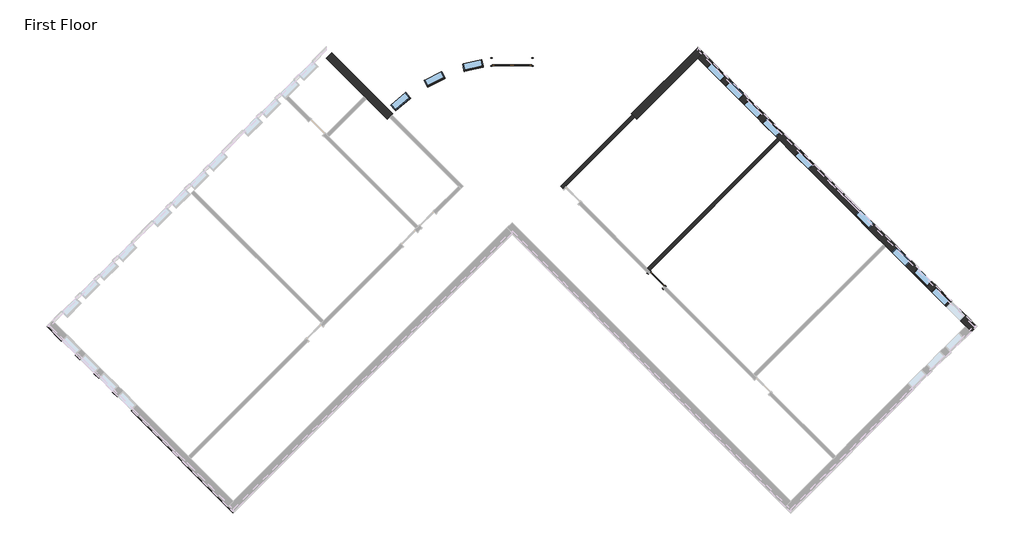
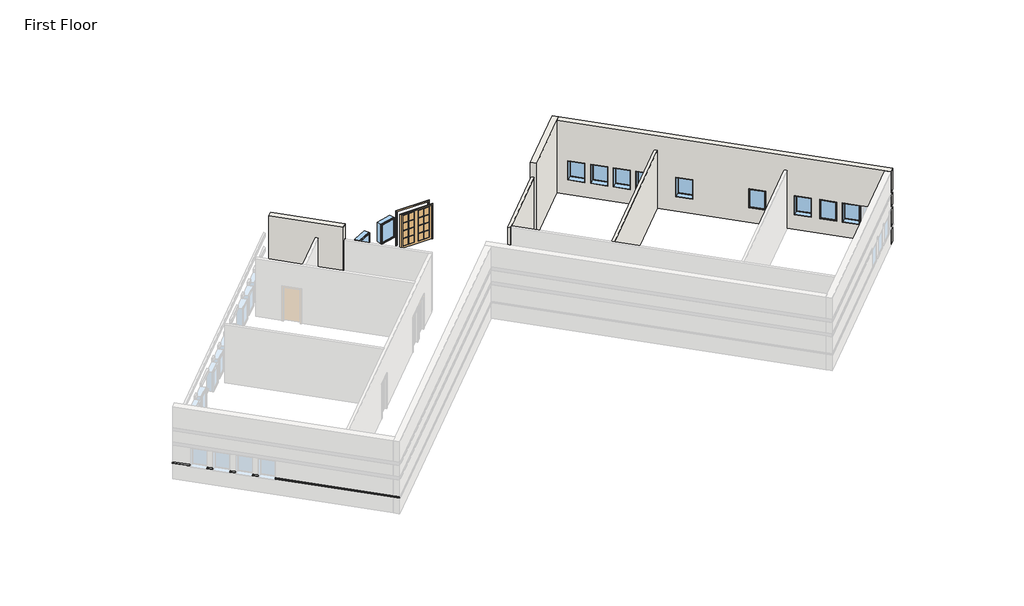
# One storey, part 2 of 3: 12 windows, 5 walls, 2 doors, 1 proxy.
"""IFC4 building model written with IfcOpenShell, lengths in millimetres."""

from ifc_helpers import new_model, si_unit, frame, origin, origin_with_axes, place, context, project, spatial, polyline, circle_curve, outline, extrude, faceted_brep, transform, mapped, element, save
from ifc_brep_helpers import plane_surface, cylinder_surface, revolved_surface, advanced_brep
from components import door_0a477ef8, door_5f5b55da, window_15c49d37

model = new_model("IFC4")

# Units and contexts
model_context = context("Model", 3, world=origin())
ifc_project = project(units=[si_unit("LENGTHUNIT", "METRE", prefix="MILLI")], contexts=[model_context])

# Site, building, storey
site = spatial("IfcSite", under=ifc_project)
building = spatial("IfcBuilding", under=site)
storey = spatial("IfcBuildingStorey", under=building, Name="First Floor", Elevation=0.0)

# Proxy
placement = place(None, origin())
element("IfcBuildingElementProxy", 1, Name="Wall Sweeps", at=placement, inside=storey, context=model_context, shape_type="Brep", body=[
    faceted_brep([(-23692.119777, -1956.2990742, 1085.85), (-23757.2266339, -2021.405931, 1085.85), (-23781.9223383, -2046.1016354, 1041.4), (-23781.9223383, -2046.1016354, 1016.0), (-23757.2266339, -2021.405931, 1016.0), (-23692.119777, -1956.2990742, 1016.0), (-24290.4293411, -1357.9895101, 1085.85), (-24290.4293411, -1357.9895101, 1016.0), (-24470.0344635, -1357.9895101, 1016.0), (-24470.0344635, -1357.9895101, 1041.4), (-24420.6430549, -1357.9895101, 1085.85)], [[[0, 1, 2, 3, 4, 5]], [[6, 7, 8, 9, 10]], [[1, 0, 6, 10]], [[2, 1, 10, 9]], [[3, 2, 9, 8]], [[5, 4, 3, 8, 7]], [[0, 5, 7, 6]]]),
    faceted_brep([(-15799.5971786, -9848.8216726, 1085.85), (-15799.5971786, -9979.0353863, 1085.85), (-15799.5971786, -10028.426795, 1041.4), (-15799.5971786, -10028.426795, 1016.0), (-15799.5971786, -9848.8216726, 1016.0), (-20459.2275735, -5189.1912777, 1085.85), (-20459.2275735, -5189.1912777, 1016.0), (-20524.3344303, -5254.2981346, 1016.0), (-20549.0301347, -5278.993839, 1016.0), (-20549.0301347, -5278.993839, 1041.4), (-20524.3344303, -5254.2981346, 1085.85), (-15983.6924291, -9664.7264221, 1085.85), (-15983.6924291, -9664.7264221, 1016.0)], [[[0, 1, 2, 3, 4]], [[5, 6, 7, 8, 9, 10]], [[1, 0, 11, 5, 10]], [[2, 1, 10, 9]], [[3, 2, 9, 8]], [[4, 3, 8, 7, 6, 12]], [[0, 4, 12, 6, 5, 11]]]),
    faceted_brep([(-21105.8060142, -4542.612837, 1085.85), (-21170.9128711, -4607.7196939, 1085.85), (-21195.6085754, -4632.4153982, 1041.4), (-21195.6085754, -4632.4153982, 1016.0), (-21170.9128711, -4607.7196939, 1016.0), (-21105.8060142, -4542.612837, 1016.0), (-21321.3321611, -4327.0866901, 1085.85), (-21321.3321611, -4327.0866901, 1016.0), (-21386.439018, -4392.193547, 1016.0), (-21411.1347223, -4416.8892513, 1016.0), (-21411.1347223, -4416.8892513, 1041.4), (-21386.439018, -4392.193547, 1085.85)], [[[0, 1, 2, 3, 4, 5]], [[6, 7, 8, 9, 10, 11]], [[1, 0, 6, 11]], [[2, 1, 11, 10]], [[3, 2, 10, 9]], [[5, 4, 3, 9, 8, 7]], [[0, 5, 7, 6]]]),
    faceted_brep([(-21967.9106018, -3680.5082494, 1085.85), (-22033.0174587, -3745.6151063, 1085.85), (-22057.713163, -3770.3108106, 1041.4), (-22057.713163, -3770.3108106, 1016.0), (-22033.0174587, -3745.6151063, 1016.0), (-21967.9106018, -3680.5082494, 1016.0), (-22183.4367487, -3464.9821025, 1085.85), (-22183.4367487, -3464.9821025, 1016.0), (-22248.5436056, -3530.0889594, 1016.0), (-22273.2393099, -3554.7846637, 1016.0), (-22273.2393099, -3554.7846637, 1041.4), (-22248.5436056, -3530.0889594, 1085.85)], [[[0, 1, 2, 3, 4, 5]], [[6, 7, 8, 9, 10, 11]], [[1, 0, 6, 11]], [[2, 1, 11, 10]], [[3, 2, 10, 9]], [[5, 4, 3, 9, 8, 7]], [[0, 5, 7, 6]]]),
    faceted_brep([(-22830.0151894, -2818.4036618, 1085.85), (-22895.1220463, -2883.5105187, 1085.85), (-22919.8177506, -2908.206223, 1041.4), (-22919.8177506, -2908.206223, 1016.0), (-22895.1220463, -2883.5105187, 1016.0), (-22830.0151894, -2818.4036618, 1016.0), (-23045.5413363, -2602.8775149, 1085.85), (-23045.5413363, -2602.8775149, 1016.0), (-23110.6481932, -2667.9843718, 1016.0), (-23135.3438975, -2692.6800761, 1016.0), (-23135.3438975, -2692.6800761, 1041.4), (-23110.6481932, -2667.9843718, 1085.85)], [[[0, 1, 2, 3, 4, 5]], [[6, 7, 8, 9, 10, 11]], [[1, 0, 6, 11]], [[2, 1, 11, 10]], [[3, 2, 10, 9]], [[5, 4, 3, 9, 8, 7]], [[0, 5, 7, 6]]]),
])

# Doors
door_shape = door_0a477ef8(model_context)
element("IfcDoor", 2, ObjectType="Double-Glass 2 : 72\" x 84\"", at=placement, inside=storey, context=model_context, shape_type="MappedRepresentation", body=[
    mapped(door_shape, transform((-2868.7603243, 10905.5717204, 0.0), x_axis=(-0.9999999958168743, -9.146721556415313e-05, 0.0), y_axis=(9.146721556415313e-05, -0.9999999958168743, 0.0), z_axis=(0.0, 0.0, 1.0))),
])
door_2_shape = door_5f5b55da(model_context)
element("IfcDoor", 3, ObjectType="Single-Glass 1 : 36\" x 84\"", at=placement, inside=storey, context=model_context, shape_type="MappedRepresentation", body=[
    mapped(door_2_shape, transform((3846.9581502, 797.271959, 0.0), x_axis=(-0.7071067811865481, 0.7071067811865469, 0.0), y_axis=(-0.7071067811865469, -0.7071067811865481, 0.0), z_axis=(0.0, 0.0, 1.0))),
])

# Walls
element("IfcWall", 4, ObjectType="Exterior - Split Face and CMU on Mtl. Stud", at=placement, inside=storey, context=model_context, shape_type="AdvancedBrep", body=[
    advanced_brep(
    [(2921.9555443, 8244.1131219, 4572.0), (5753.0175119, 11075.1750895, 4572.0), (6002.2196193, 11324.3771969, 4572.0), (5753.0175119, 11573.5793042, 4572.0), (2926.4294954, 8746.9912878, 4572.0), (2677.2250436, 8497.7868359, 4572.0), (2921.9555443, 8244.1131219, 0.0), (5753.0175119, 11075.1750895, 0.0), (6002.2196193, 11324.3771969, 0.0), (6002.2196193, 11324.3771969, 1016.0), (5937.1127624, 11259.27034, 1016.0), (5937.1127624, 11259.27034, 1085.85), (6002.2196193, 11324.3771969, 1085.85), (6002.2196193, 11324.3771969, 2133.6), (5937.1127624, 11259.27034, 2133.6), (5937.1127624, 11259.27034, 2336.8), (6002.2196193, 11324.3771969, 2336.8), (6002.2196193, 11324.3771969, 3048.0), (5937.1127624, 11259.27034, 3048.0), (5937.1127624, 11259.27034, 3251.2), (6002.2196193, 11324.3771969, 3251.2), (5753.0175119, 11573.5793042, 3251.2), (2926.4294954, 8746.9912878, 3251.2), (2861.3220456, 8681.8838379, 3251.2), (2861.3220456, 8681.8838379, 3048.0), (2926.4294954, 8746.9912878, 3048.0), (5753.0175119, 11573.5793042, 3048.0), (5753.0175119, 11573.5793042, 2336.8), (2926.4294954, 8746.9912878, 2336.8), (2861.3220456, 8681.8838379, 2336.8), (2861.3220456, 8681.8838379, 2133.6), (2926.4294954, 8746.9912878, 2133.6), (5753.0175119, 11573.5793042, 2133.6), (5753.0175119, 11573.5793042, 1085.85), (2926.4294954, 8746.9912878, 1085.85), (2861.3220456, 8681.8838379, 1085.85), (2861.3220456, 8681.8838379, 1016.0), (2926.4294954, 8746.9912878, 1016.0), (5753.0175119, 11573.5793042, 1016.0), (5753.0175119, 11573.5793042, 0.0), (2926.4294954, 8746.9912878, 0.0), (2677.2250436, 8497.7868359, 0.0), (2821.6573727, 8350.8353182, 0.0), (2742.2400511, 8432.5881297, 0.0), (5818.1243688, 11508.4724474, 0.0), (2926.3399919, 8616.6880705, 1085.85), (5753.0175119, 11443.3655905, 1085.85), (5753.0175119, 11443.3655905, 1016.0), (2926.3399919, 8616.6880705, 1016.0), (5753.0175119, 11443.3655905, 2133.6), (2926.3399919, 8616.6880705, 2133.6), (2926.3399919, 8616.6880705, 2336.8), (5753.0175119, 11443.3655905, 2336.8), (5753.0175119, 11443.3655905, 3048.0), (2926.3399919, 8616.6880705, 3048.0), (2926.3399919, 8616.6880705, 3251.2), (5753.0175119, 11443.3655905, 3251.2), (2712.9543912, 8462.145299, 0.0)],
    [
        (0, 1),
        (1, 2),
        (2, 3),
        (3, 4),
        (4, 5),
        (5, 0, circle_curve(frame((-2868.0283643, 2903.1420194, 4572.0), z_axis=(0.0, 0.0, -1.0), x_axis=(1.0, 0.0, 0.0)), 7877.175)),
        (6, 7),
        (7, 8),
        (8, 9),
        (9, 10),
        (10, 11),
        (11, 12),
        (12, 13),
        (13, 14),
        (14, 15),
        (15, 16),
        (16, 17),
        (17, 18),
        (18, 19),
        (19, 20),
        (20, 2),
        (0, 6),
        (3, 21),
        (21, 22),
        (22, 23),
        (23, 24),
        (24, 25),
        (25, 26),
        (26, 27),
        (27, 28),
        (28, 29),
        (29, 30),
        (30, 31),
        (31, 32),
        (32, 33),
        (33, 34),
        (34, 35),
        (35, 36),
        (36, 37),
        (37, 38),
        (38, 39),
        (39, 40),
        (40, 41),
        (41, 5),
        (6, 42, circle_curve(frame((-2868.0283643, 2903.1420194, 0.0), z_axis=(0.0, 0.0, 1.0), x_axis=(1.0, 0.0, 0.0)), 7877.175)),
        (42, 43, circle_curve(frame((-2868.0283643, 2903.1420194, 0.0), z_axis=(0.0, 0.0, 1.0), x_axis=(1.0, 0.0, 0.0)), 7877.1750053)),
        (43, 44),
        (44, 8),
        (45, 46),
        (46, 47),
        (47, 48),
        (48, 45),
        (49, 50),
        (50, 51),
        (51, 52),
        (52, 49),
        (53, 54),
        (54, 55),
        (55, 56),
        (56, 53),
        (20, 21),
        (44, 39),
        (38, 9),
        (12, 33),
        (32, 13),
        (16, 27),
        (26, 17),
        (46, 11),
        (10, 47),
        (52, 15),
        (14, 49),
        (56, 19),
        (18, 53),
        (43, 57, circle_curve(frame((-2868.0283643, 2903.1420194, 0.0), z_axis=(0.0, 0.0, 1.0), x_axis=(1.0, 0.0, 0.0)), 7877.175)),
        (57, 41, circle_curve(frame((-2868.0283643, 2903.1420194, 0.0), z_axis=(0.0, 0.0, 1.0), x_axis=(1.0, 0.0, 0.0)), 7877.175)),
        (45, 35, circle_curve(frame((-2868.0283643, 2903.1420194, 1085.85), z_axis=(0.0, 0.0, 1.0), x_axis=(0.6844196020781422, 0.7290883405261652, 0.0)), 8137.525)),
        (36, 48, circle_curve(frame((-2868.0283643, 2903.1420194, 1016.0), z_axis=(0.0, 0.0, -1.0), x_axis=(0.6844196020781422, 0.7290883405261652, 0.0)), 8137.525)),
        (30, 50, circle_curve(frame((-2868.0283643, 2903.1420194, 2133.6), z_axis=(0.0, 0.0, -1.0), x_axis=(0.6844196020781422, 0.7290883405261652, 0.0)), 8137.525)),
        (29, 51, circle_curve(frame((-2868.0283643, 2903.1420194, 2336.8), z_axis=(0.0, 0.0, -1.0), x_axis=(0.6844196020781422, 0.7290883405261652, 0.0)), 8137.525)),
        (24, 54, circle_curve(frame((-2868.0283643, 2903.1420194, 3048.0), z_axis=(0.0, 0.0, -1.0), x_axis=(-0.7040995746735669, 0.7101012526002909, 0.0)), 8137.525)),
        (23, 55, circle_curve(frame((-2868.0283643, 2903.1420194, 3251.2), z_axis=(0.0, 0.0, -1.0), x_axis=(-0.7040995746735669, 0.7101012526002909, 0.0)), 8137.525)),
    ],
    [
        plane_surface(frame((5877.6185656, 11199.7761432, 4572.0), z_axis=(0.0, 0.0, 1.0), x_axis=(-0.707106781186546, 0.7071067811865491, 0.0))),
        plane_surface(frame((2984.8535626, 8307.0111402, 0.0), z_axis=(0.707106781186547, -0.7071067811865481, 0.0), x_axis=(0.7071067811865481, 0.707106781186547, 0.0))),
        plane_surface(frame((2735.6514552, 8556.2132476, 0.0), z_axis=(-0.707106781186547, 0.7071067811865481, 0.0), x_axis=(-0.7071067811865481, -0.707106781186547, 0.0))),
        plane_surface(frame((3050.2065213, 8372.3640989, 0.0), z_axis=(0.0, 0.0, -1.0000000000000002), x_axis=(-0.7071067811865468, 0.7071067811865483, 0.0))),
        plane_surface(frame((2926.3399919, 8616.6880705, 1016.0), z_axis=(-0.7071067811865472, 0.7071067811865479, 0.0), x_axis=(0.7071067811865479, 0.7071067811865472, 0.0))),
        plane_surface(frame((2926.3399919, 8616.6880705, 2133.6), z_axis=(-0.7071067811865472, 0.7071067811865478, 0.0), x_axis=(0.7071067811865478, 0.7071067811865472, 0.0))),
        plane_surface(frame((2926.3399919, 8616.6880705, 3048.0), z_axis=(-0.7071067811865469, 0.7071067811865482, 0.0), x_axis=(0.7071067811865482, 0.7071067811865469, 0.0))),
        plane_surface(frame((5753.0175119, 11573.5793042, 0.0), z_axis=(0.7071067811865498, 0.7071067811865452, 0.0), x_axis=(-0.7071067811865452, 0.7071067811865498, 0.0))),
        plane_surface(frame((5753.0175119, 11443.3655905, 1016.0), z_axis=(0.7071067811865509, 0.7071067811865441, 0.0), x_axis=(0.7071067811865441, -0.7071067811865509, 0.0))),
        plane_surface(frame((5753.0175119, 11443.3655905, 2133.6), z_axis=(0.7071067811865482, 0.7071067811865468, 0.0), x_axis=(0.7071067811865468, -0.7071067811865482, 0.0))),
        plane_surface(frame((5753.0175119, 11443.3655905, 3048.0), z_axis=(0.7071067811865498, 0.7071067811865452, 0.0), x_axis=(0.7071067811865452, -0.7071067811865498, 0.0))),
        plane_surface(frame((0.0, 0.0, 0.0), z_axis=(0.0, 0.0, -1.0), x_axis=(1.0, 0.0, 0.0))),
        plane_surface(frame((-2868.0283643, 2903.1420194, 1085.85), z_axis=(0.0, 0.0, -1.0), x_axis=(0.6844196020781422, 0.7290883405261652, 0.0))),
        plane_surface(frame((-2868.0283643, 2903.1420194, 1016.0), z_axis=(0.0, 0.0, 1.0), x_axis=(0.6844196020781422, 0.7290883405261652, 0.0))),
        cylinder_surface(frame((-2868.0283643, 2903.1420194, 1016.0), z_axis=(0.0, 0.0, -1.0), x_axis=(0.6844196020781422, 0.7290883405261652, 0.0)), 8137.525),
        plane_surface(frame((-2868.0283643, 2903.1420194, 2133.6), z_axis=(0.0, 0.0, 1.0), x_axis=(0.6844196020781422, 0.7290883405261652, 0.0))),
        cylinder_surface(frame((-2868.0283643, 2903.1420194, 2133.6), z_axis=(0.0, 0.0, -1.0), x_axis=(0.6844196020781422, 0.7290883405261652, 0.0)), 8137.525),
        plane_surface(frame((-2868.0283643, 2903.1420194, 2336.8), z_axis=(0.0, 0.0, -1.0), x_axis=(0.6844196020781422, 0.7290883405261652, 0.0))),
        plane_surface(frame((-2868.0283643, 2903.1420194, 3048.0), z_axis=(0.0, 0.0, 1.0), x_axis=(-0.7040995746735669, 0.7101012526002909, 0.0))),
        cylinder_surface(frame((-2868.0283643, 2903.1420194, 3048.0), z_axis=(0.0, 0.0, -1.0), x_axis=(-0.7040995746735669, 0.7101012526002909, 0.0)), 8137.525),
        plane_surface(frame((-2868.0283643, 2903.1420194, 3251.2), z_axis=(0.0, 0.0, -1.0), x_axis=(-0.7040995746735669, 0.7101012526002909, 0.0))),
        revolved_surface(polyline([(5009.146635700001, 2903.1420194, 0.0), (5009.146635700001, 2903.1420194, 4572.0)]), (-2868.0283643, 2903.1420194, 0.0), (0.0, 0.0, -1.0)),
    ],
    [
        (0, [[1, 2, 3, 4, 5, 6]]),
        (1, [[7, 8, 9, 10, 11, 12, 13, 14, 15, 16, 17, 18, 19, 20, 21, -2, -1, 22]]),
        (2, [[-5, -4, 23, 24, 25, 26, 27, 28, 29, 30, 31, 32, 33, 34, 35, 36, 37, 38, 39, 40, 41, 42, 43, 44]]),
        (3, [[-8, -7, 45, 46, 47, 48]]),
        (4, [[49, 50, 51, 52]]),
        (5, [[53, 54, 55, 56]]),
        (6, [[57, 58, 59, 60]]),
        (7, [[-3, -21, 61, -23]]),
        (7, [[-48, 62, -41, 63, -9]]),
        (7, [[64, -35, 65, -13]]),
        (7, [[66, -29, 67, -17]]),
        (8, [[-50, 68, -11, 69]]),
        (9, [[-56, 70, -15, 71]]),
        (10, [[-60, 72, -19, 73]]),
        (11, [[74, 75, -43, -42, -62, -47]]),
        (12, [[-49, 76, -37, -36, -64, -12, -68]]),
        (13, [[-51, -69, -10, -63, -40, -39, 77]]),
        (14, [[-52, -77, -38, -76]]),
        (15, [[-53, -71, -14, -65, -34, -33, 78]]),
        (16, [[-54, -78, -32, 79]]),
        (17, [[-55, -79, -31, -30, -66, -16, -70]]),
        (18, [[-57, -73, -18, -67, -28, -27, 80]]),
        (19, [[-58, -80, -26, 81]]),
        (20, [[-59, -81, -25, -24, -61, -20, -72]]),
        (21, [[-6, -44, -75, -74, -46, -45, -22]]),
    ],
),
])
element("IfcWall", 5, ObjectType="Exterior - Split Face and CMU on Mtl. Stud", at=placement, inside=storey, context=model_context, shape_type="Brep", body=[
    faceted_brep([(5753.0175119, 11075.1750895, 4572.0), (18186.1821115, -1357.9895101, 4572.0), (18435.3842189, -1607.1916175, 4572.0), (18684.5863263, -1357.9895101, 4572.0), (6002.2196193, 11324.3771969, 4572.0), (5753.0175119, 11075.1750895, 0.0), (9452.8830338, 7375.3095676, 0.0), (9562.8911713, 7265.3014302, 0.0), (14376.3084522, 2451.8841493, 0.0), (14486.3165897, 2341.8760118, 0.0), (18186.1821115, -1357.9895101, 0.0), (18435.3842189, -1607.1916175, 0.0), (18435.3842189, -1607.1916175, 1016.0), (18370.277362, -1542.0847606, 1016.0), (18370.277362, -1542.0847606, 1085.85), (18435.3842189, -1607.1916175, 1085.85), (18435.3842189, -1607.1916175, 2133.6), (18370.277362, -1542.0847606, 2133.6), (18370.277362, -1542.0847606, 2336.8), (18435.3842189, -1607.1916175, 2336.8), (18435.3842189, -1607.1916175, 3048.0), (18370.277362, -1542.0847606, 3048.0), (18370.277362, -1542.0847606, 3251.2), (18435.3842189, -1607.1916175, 3251.2), (6813.8102662, 10014.3823352, 2133.6), (6813.8102662, 10014.3823352, 914.4), (6167.2318255, 10660.9607759, 914.4), (6167.2318255, 10660.9607759, 2133.6), (7675.9148538, 9152.2777476, 2133.6), (7675.9148538, 9152.2777476, 914.4), (7029.3364131, 9798.8561883, 914.4), (7029.3364131, 9798.8561883, 2133.6), (8538.0194415, 8290.17316, 2133.6), (8538.0194415, 8290.17316, 914.4), (7891.4410008, 8936.7516007, 914.4), (7891.4410008, 8936.7516007, 2133.6), (15401.180182, 1427.0124195, 2133.6), (15401.180182, 1427.0124195, 914.4), (14754.6017413, 2073.5908602, 914.4), (14754.6017413, 2073.5908602, 2133.6), (15724.4694024, 1103.7231991, 914.4), (15724.4694024, 1103.7231991, 2133.6), (16371.0478431, 457.1447584, 2133.6), (16371.0478431, 457.1447584, 914.4), (17233.1524307, -404.9598292, 2133.6), (17233.1524307, -404.9598292, 914.4), (16586.57399, 241.6186115, 914.4), (16586.57399, 241.6186115, 2133.6), (17933.6124081, -1105.4198067, 2133.6), (17933.6124081, -1105.4198067, 914.4), (17287.0339674, -458.841366, 914.4), (17287.0339674, -458.841366, 2133.6), (10908.8070574, 5919.385544, 2133.6), (10908.8070574, 5919.385544, 914.4), (10262.2286167, 6565.9639847, 914.4), (10262.2286167, 6565.9639847, 2133.6), (13030.392566, 3797.8000354, 914.4), (13030.392566, 3797.8000354, 2133.6), (13676.9710067, 3151.2215947, 2133.6), (13676.9710067, 3151.2215947, 914.4), (9400.1240291, 7428.0685724, 2133.6), (9400.1240291, 7428.0685724, 914.4), (8753.5455884, 8074.6470131, 914.4), (8753.5455884, 8074.6470131, 2133.6), (18684.5863263, -1357.9895101, 3251.2), (6002.2196193, 11324.3771969, 3251.2), (18684.5863263, -1357.9895101, 0.0), (6002.2196193, 11324.3771969, 0.0), (6002.2196193, 11324.3771969, 1016.0), (6416.4339329, 10910.1628833, 1016.0), (6416.4339329, 10910.1628833, 914.4), (7063.0123736, 10263.5844426, 914.4), (7063.0123736, 10263.5844426, 1016.0), (7278.5385205, 10048.0582957, 1016.0), (7278.5385205, 10048.0582957, 914.4), (7925.1169612, 9401.479855, 914.4), (7925.1169612, 9401.479855, 1016.0), (8140.6431081, 9185.9537081, 1016.0), (8140.6431081, 9185.9537081, 914.4), (8787.2215488, 8539.3752673, 914.4), (8787.2215488, 8539.3752673, 1016.0), (9002.7476957, 8323.8491204, 1016.0), (9002.7476957, 8323.8491204, 914.4), (9649.3261364, 7677.2706797, 914.4), (9649.3261364, 7677.2706797, 1016.0), (10511.4307241, 6815.1660921, 1016.0), (10511.4307241, 6815.1660921, 914.4), (11158.0091648, 6168.5876514, 914.4), (11158.0091648, 6168.5876514, 1016.0), (13279.5946734, 4047.0021428, 1016.0), (13279.5946734, 4047.0021428, 914.4), (13926.1731141, 3400.4237021, 914.4), (13926.1731141, 3400.4237021, 1016.0), (15003.8038486, 2322.7929675, 1016.0), (15003.8038486, 2322.7929675, 914.4), (15650.3822894, 1676.2145268, 914.4), (15650.3822894, 1676.2145268, 1016.0), (15973.6715097, 1352.9253065, 1016.0), (15973.6715097, 1352.9253065, 914.4), (16620.2499504, 706.3468657, 914.4), (16620.2499504, 706.3468657, 1016.0), (16835.7760973, 490.8207188, 1016.0), (16835.7760973, 490.8207188, 914.4), (17482.3545381, -155.7577219, 914.4), (17482.3545381, -155.7577219, 1016.0), (17536.2360748, -209.6392586, 1016.0), (17536.2360748, -209.6392586, 914.4), (18182.8145155, -856.2176993, 914.4), (18182.8145155, -856.2176993, 1016.0), (18684.5863263, -1357.9895101, 1016.0), (7063.0123736, 10263.5844426, 2133.6), (6416.4339329, 10910.1628833, 2133.6), (6416.4339329, 10910.1628833, 2336.8), (6002.2196193, 11324.3771969, 2336.8), (6002.2196193, 11324.3771969, 3048.0), (18684.5863263, -1357.9895101, 3048.0), (18684.5863263, -1357.9895101, 2336.8), (18182.8145155, -856.2176993, 2336.8), (18182.8145155, -856.2176993, 2133.6), (17536.2360748, -209.6392586, 2133.6), (17536.2360748, -209.6392586, 2336.8), (17482.3545381, -155.7577219, 2336.8), (17482.3545381, -155.7577219, 2133.6), (16835.7760973, 490.8207188, 2133.6), (16835.7760973, 490.8207188, 2336.8), (16620.2499504, 706.3468657, 2336.8), (16620.2499504, 706.3468657, 2133.6), (15973.6715097, 1352.9253065, 2133.6), (15973.6715097, 1352.9253065, 2336.8), (15650.3822894, 1676.2145268, 2336.8), (15650.3822894, 1676.2145268, 2133.6), (15003.8038486, 2322.7929675, 2133.6), (15003.8038486, 2322.7929675, 2336.8), (13926.1731141, 3400.4237021, 2336.8), (13926.1731141, 3400.4237021, 2133.6), (13279.5946734, 4047.0021428, 2133.6), (13279.5946734, 4047.0021428, 2336.8), (11158.0091648, 6168.5876514, 2336.8), (11158.0091648, 6168.5876514, 2133.6), (10511.4307241, 6815.1660921, 2133.6), (10511.4307241, 6815.1660921, 2336.8), (9649.3261364, 7677.2706797, 2336.8), (9649.3261364, 7677.2706797, 2133.6), (9002.7476957, 8323.8491204, 2133.6), (9002.7476957, 8323.8491204, 2336.8), (8787.2215488, 8539.3752673, 2336.8), (8787.2215488, 8539.3752673, 2133.6), (8140.6431081, 9185.9537081, 2133.6), (8140.6431081, 9185.9537081, 2336.8), (7925.1169612, 9401.479855, 2336.8), (7925.1169612, 9401.479855, 2133.6), (7278.5385205, 10048.0582957, 2133.6), (7278.5385205, 10048.0582957, 2336.8), (7063.0123736, 10263.5844426, 2336.8), (6416.4339329, 10910.1628833, 1085.85), (6002.2196193, 11324.3771969, 1085.85), (6002.2196193, 11324.3771969, 2133.6), (7063.0123736, 10263.5844426, 1085.85), (7278.5385205, 10048.0582957, 1085.85), (7925.1169612, 9401.479855, 1085.85), (8140.6431081, 9185.9537081, 1085.85), (8787.2215488, 8539.3752673, 1085.85), (9002.7476957, 8323.8491204, 1085.85), (15003.8038486, 2322.7929675, 1085.85), (13926.1731141, 3400.4237021, 1085.85), (15650.3822894, 1676.2145268, 1085.85), (15973.6715097, 1352.9253065, 1085.85), (16620.2499504, 706.3468657, 1085.85), (16835.7760973, 490.8207188, 1085.85), (17482.3545381, -155.7577219, 1085.85), (17536.2360748, -209.6392586, 1085.85), (18182.8145155, -856.2176993, 1085.85), (18684.5863263, -1357.9895101, 2133.6), (18684.5863263, -1357.9895101, 1085.85), (13279.5946734, 4047.0021428, 1085.85), (11158.0091648, 6168.5876514, 1085.85), (9649.3261364, 7677.2706797, 1085.85), (10511.4307241, 6815.1660921, 1085.85), (5937.1127624, 11259.27034, 0.0), (18619.4794694, -1423.096367, 0.0), (18554.3726125, -1357.9895101, 1085.85), (18117.7076586, -921.3245562, 1085.85), (18117.7076586, -921.3245562, 1016.0), (18554.3726125, -1357.9895101, 1016.0), (18117.7076586, -921.3245562, 2133.6), (18117.7076586, -921.3245562, 2336.8), (18554.3726125, -1357.9895101, 2133.6), (18554.3726125, -1357.9895101, 2336.8), (18554.3726125, -1357.9895101, 3251.2), (18554.3726125, -1357.9895101, 3048.0), (5937.1127624, 11259.27034, 3048.0), (5937.1127624, 11259.27034, 3251.2), (5937.1127624, 11259.27034, 2336.8), (5937.1127624, 11259.27034, 2133.6), (5937.1127624, 11259.27034, 1085.85), (5937.1127624, 11259.27034, 1016.0), (6351.327076, 10845.0560264, 1085.85), (6351.327076, 10845.0560264, 1016.0), (6351.327076, 10845.0560264, 2133.6), (6351.327076, 10845.0560264, 2336.8), (6997.9055167, 10198.4775857, 2133.6), (6997.9055167, 10198.4775857, 1085.85), (6997.9055167, 10198.4775857, 1016.0), (6351.327076, 10845.0560264, 2133.6), (17417.2476812, -220.8645788, 1085.85), (17471.1292179, -274.7461155, 1085.85), (17471.1292179, -274.7461155, 1016.0), (17417.2476812, -220.8645788, 1016.0), (17471.1292179, -274.7461155, 2336.8), (17471.1292179, -274.7461155, 2133.6), (17417.2476812, -220.8645788, 2133.6), (17417.2476812, -220.8645788, 2336.8), (7860.0101043, 9336.3729981, 2133.6), (7860.0101043, 9336.3729981, 1085.85), (7860.0101043, 9336.3729981, 1016.0), (7213.4316636, 9982.9514388, 1016.0), (7213.4316636, 9982.9514388, 1085.85), (7213.4316636, 9982.9514388, 2133.6), (16555.1430936, 641.2400089, 1085.85), (16770.6692405, 425.713862, 1085.85), (16770.6692405, 425.713862, 1016.0), (16555.1430936, 641.2400089, 1016.0), (16770.6692405, 425.713862, 2336.8), (16770.6692405, 425.713862, 2133.6), (16555.1430936, 641.2400089, 2133.6), (16555.1430936, 641.2400089, 2336.8), (8722.1146919, 8474.2684105, 2133.6), (8722.1146919, 8474.2684105, 1085.85), (8722.1146919, 8474.2684105, 1016.0), (8075.5362512, 9120.8468512, 1016.0), (8075.5362512, 9120.8468512, 1085.85), (8075.5362512, 9120.8468512, 2133.6), (15585.2754325, 1611.1076699, 1085.85), (15908.5646528, 1287.8184496, 1085.85), (15908.5646528, 1287.8184496, 1016.0), (15585.2754325, 1611.1076699, 1016.0), (15908.5646528, 1287.8184496, 2336.8), (15908.5646528, 1287.8184496, 2133.6), (15585.2754325, 1611.1076699, 2133.6), (15585.2754325, 1611.1076699, 2336.8), (13861.0662572, 3335.3168452, 1085.85), (14938.6969918, 2257.6861107, 1085.85), (14938.6969918, 2257.6861107, 1016.0), (13861.0662572, 3335.3168452, 1016.0), (14938.6969918, 2257.6861107, 2336.8), (14938.6969918, 2257.6861107, 2133.6), (13861.0662572, 3335.3168452, 2133.6), (13861.0662572, 3335.3168452, 2336.8), (15585.2754325, 1611.1076699, 2133.6), (14938.6969918, 2257.6861107, 2133.6), (11092.9023079, 6103.4807945, 1085.85), (13214.4878165, 3981.8952859, 1085.85), (13214.4878165, 3981.8952859, 1016.0), (11092.9023079, 6103.4807945, 1016.0), (13214.4878165, 3981.8952859, 2336.8), (13214.4878165, 3981.8952859, 2133.6), (11092.9023079, 6103.4807945, 2133.6), (11092.9023079, 6103.4807945, 2336.8), (15908.5646528, 1287.8184496, 2133.6), (16555.1430936, 641.2400089, 2133.6), (9584.2192796, 7612.1638228, 1085.85), (10446.3238672, 6750.0592352, 1085.85), (10446.3238672, 6750.0592352, 1016.0), (9584.2192796, 7612.1638228, 1016.0), (10446.3238672, 6750.0592352, 2336.8), (10446.3238672, 6750.0592352, 2133.6), (9584.2192796, 7612.1638228, 2133.6), (9584.2192796, 7612.1638228, 2336.8), (17417.2476812, -220.8645788, 2133.6), (16770.6692405, 425.713862, 2133.6), (8937.6408389, 8258.7422636, 1085.85), (8937.6408389, 8258.7422636, 1016.0), (8937.6408389, 8258.7422636, 2336.8), (8937.6408389, 8258.7422636, 2133.6), (8722.1146919, 8474.2684105, 2133.6), (8722.1146919, 8474.2684105, 2336.8), (18117.7076586, -921.3245562, 2133.6), (17471.1292179, -274.7461155, 2133.6), (8075.5362512, 9120.8468512, 2336.8), (8075.5362512, 9120.8468512, 2133.6), (7860.0101043, 9336.3729981, 2133.6), (7860.0101043, 9336.3729981, 2336.8), (11092.9023079, 6103.4807945, 2133.6), (10446.3238672, 6750.0592352, 2133.6), (7213.4316636, 9982.9514388, 2336.8), (7213.4316636, 9982.9514388, 2133.6), (6997.9055167, 10198.4775857, 2133.6), (6997.9055167, 10198.4775857, 2336.8), (13214.4878165, 3981.8952859, 2133.6), (13861.0662572, 3335.3168452, 2133.6), (9584.2192796, 7612.1638228, 2133.6), (8937.6408389, 8258.7422636, 2133.6)], [[[0, 1, 2, 3, 4]], [[5, 6, 7, 8, 9, 10, 11, 12, 13, 14, 15, 16, 17, 18, 19, 20, 21, 22, 23, 2, 1, 0], [24, 25, 26, 27], [28, 29, 30, 31], [32, 33, 34, 35], [36, 37, 38, 39], [40, 41, 42, 43], [44, 45, 46, 47], [48, 49, 50, 51], [52, 53, 54, 55], [56, 57, 58, 59], [60, 61, 62, 63]], [[4, 3, 64, 65]], [[66, 67, 68, 69, 70, 71, 72, 73, 74, 75, 76, 77, 78, 79, 80, 81, 82, 83, 84, 85, 86, 87, 88, 89, 90, 91, 92, 93, 94, 95, 96, 97, 98, 99, 100, 101, 102, 103, 104, 105, 106, 107, 108, 109]], [[110, 111, 112, 113, 114, 115, 116, 117, 118, 119, 120, 121, 122, 123, 124, 125, 126, 127, 128, 129, 130, 131, 132, 133, 134, 135, 136, 137, 138, 139, 140, 141, 142, 143, 144, 145, 146, 147, 148, 149, 150, 151, 152, 153]], [[111, 154, 155, 156]], [[157, 110, 151, 158]], [[159, 150, 147, 160]], [[161, 146, 143, 162]], [[131, 163, 164, 134]], [[165, 130, 127, 166]], [[167, 126, 123, 168]], [[169, 122, 119, 170]], [[171, 118, 172, 173]], [[135, 174, 175, 138]], [[176, 142, 139, 177]], [[11, 10, 9, 8, 7, 6, 5, 178, 179]], [[180, 181, 171, 173, 15, 14]], [[182, 183, 13, 12, 109, 108]], [[181, 180, 183, 182]], [[184, 118, 117, 185]], [[118, 184, 186, 17, 16, 172]], [[184, 185, 187, 186]], [[185, 117, 116, 19, 18, 187]], [[188, 189, 190, 191]], [[5, 0, 4, 65, 191, 190, 114, 113, 192, 193, 156, 155, 194, 195, 68, 67, 178]], [[67, 66, 179, 178]], [[196, 194, 155, 154]], [[195, 197, 69, 68]], [[198, 111, 156, 193]], [[112, 199, 192, 113]], [[190, 189, 21, 20, 115, 114]], [[22, 188, 191, 65, 64, 23]], [[3, 2, 23, 64]], [[11, 179, 66, 109, 12]], [[15, 173, 172, 16]], [[19, 116, 115, 20]], [[189, 188, 22, 21]], [[25, 24, 200, 110, 157, 201, 202, 72, 71]], [[26, 25, 71, 70]], [[27, 26, 70, 69, 197, 196, 154, 111, 203]], [[24, 27, 203, 111, 110, 200]], [[204, 205, 206, 207]], [[208, 120, 119, 209]], [[210, 211, 208, 209]], [[29, 28, 212, 150, 159, 213, 214, 76, 75]], [[30, 29, 75, 74]], [[31, 30, 74, 73, 215, 216, 158, 151, 217]], [[28, 31, 217, 151, 150, 212]], [[218, 219, 220, 221]], [[205, 204, 169, 170]], [[207, 206, 105, 104]], [[222, 124, 123, 223]], [[224, 225, 222, 223]], [[210, 122, 121, 211]], [[122, 210, 209, 119]], [[211, 121, 120, 208]], [[33, 32, 226, 146, 161, 227, 228, 80, 79]], [[34, 33, 79, 78]], [[35, 34, 78, 77, 229, 230, 160, 147, 231]], [[32, 35, 231, 147, 146, 226]], [[232, 233, 234, 235]], [[219, 218, 167, 168]], [[221, 220, 101, 100]], [[236, 128, 127, 237]], [[238, 239, 236, 237]], [[224, 126, 125, 225]], [[126, 224, 223, 123]], [[225, 125, 124, 222]], [[240, 241, 242, 243]], [[233, 232, 165, 166]], [[235, 234, 97, 96]], [[244, 132, 131, 245]], [[246, 247, 244, 245]], [[238, 130, 129, 239]], [[130, 238, 237, 127]], [[239, 129, 128, 236]], [[37, 36, 248, 130, 165, 232, 235, 96, 95]], [[38, 37, 95, 94]], [[39, 38, 94, 93, 242, 241, 163, 131, 249]], [[36, 39, 249, 131, 130, 248]], [[250, 251, 252, 253]], [[241, 240, 164, 163]], [[243, 242, 93, 92]], [[254, 136, 135, 255]], [[256, 257, 254, 255]], [[246, 134, 133, 247]], [[134, 246, 245, 131]], [[247, 133, 132, 244]], [[41, 40, 98, 97, 234, 233, 166, 127, 258]], [[99, 98, 40, 43]], [[43, 42, 259, 126, 167, 218, 221, 100, 99]], [[127, 126, 259, 42, 41, 258]], [[260, 261, 262, 263]], [[251, 250, 175, 174]], [[253, 252, 89, 88]], [[264, 140, 139, 265]], [[266, 267, 264, 265]], [[256, 138, 137, 257]], [[138, 256, 255, 135]], [[257, 137, 136, 254]], [[45, 44, 268, 122, 169, 204, 207, 104, 103]], [[46, 45, 103, 102]], [[47, 46, 102, 101, 220, 219, 168, 123, 269]], [[44, 47, 269, 123, 122, 268]], [[227, 270, 271, 228]], [[261, 260, 176, 177]], [[263, 262, 85, 84]], [[272, 144, 143, 273]], [[274, 275, 272, 273]], [[266, 142, 141, 267]], [[142, 266, 265, 139]], [[267, 141, 140, 264]], [[49, 48, 276, 118, 171, 181, 182, 108, 107]], [[50, 49, 107, 106]], [[51, 50, 106, 105, 206, 205, 170, 119, 277]], [[48, 51, 277, 119, 118, 276]], [[213, 230, 229, 214]], [[270, 227, 161, 162]], [[228, 271, 81, 80]], [[278, 148, 147, 279]], [[280, 281, 278, 279]], [[274, 146, 145, 275]], [[146, 274, 273, 143]], [[275, 145, 144, 272]], [[53, 52, 282, 138, 175, 250, 253, 88, 87]], [[54, 53, 87, 86]], [[55, 54, 86, 85, 262, 261, 177, 139, 283]], [[52, 55, 283, 139, 138, 282]], [[201, 216, 215, 202]], [[230, 213, 159, 160]], [[214, 229, 77, 76]], [[284, 152, 151, 285]], [[286, 287, 284, 285]], [[280, 150, 149, 281]], [[150, 280, 279, 147]], [[281, 149, 148, 278]], [[57, 56, 90, 89, 252, 251, 174, 135, 288]], [[91, 90, 56, 59]], [[59, 58, 289, 134, 164, 240, 243, 92, 91]], [[135, 134, 289, 58, 57, 288]], [[216, 201, 157, 158]], [[202, 215, 73, 72]], [[183, 180, 14, 13]], [[286, 110, 153, 287]], [[110, 286, 285, 151]], [[287, 153, 152, 284]], [[186, 187, 18, 17]], [[83, 61, 60, 290, 142, 176, 260, 263, 84]], [[82, 62, 61, 83]], [[62, 82, 81, 271, 270, 162, 143, 291, 63]], [[60, 63, 291, 143, 142, 290]], [[194, 196, 197, 195]], [[111, 198, 199, 112]], [[199, 198, 193, 192]]]),
])
element("IfcWall", 6, ObjectType="Exterior - Split Face and CMU on Mtl. Stud", at=placement, inside=storey, context=model_context, shape_type="AdvancedBrep", body=[
    advanced_brep(
    [(-11489.0742405, 11075.1750895, 0.0), (-9728.9440408, 9315.0448898, 0.0), (-9618.9359033, 9205.0367523, 0.0), (-8658.0122729, 8244.1131219, 0.0), (-8658.0122729, 8244.1131219, 4572.0), (-11489.0742405, 11075.1750895, 4572.0), (-11239.8721332, 11324.3771969, 4572.0), (-8662.486224, 8746.9912878, 4572.0), (-8413.2817722, 8497.7868359, 4572.0), (-8413.2817722, 8497.7868359, 0.0), (-8662.486224, 8746.9912878, 0.0), (-11239.8721332, 11324.3771969, 0.0), (-11239.8721332, 11324.3771969, 1016.0), (-8662.486224, 8746.9912878, 1016.0), (-8597.3787742, 8681.8838379, 1016.0), (-8597.3787742, 8681.8838379, 1085.85), (-8662.486224, 8746.9912878, 1085.85), (-11239.8721332, 11324.3771969, 1085.85), (-11239.8721332, 11324.3771969, 2133.6), (-8662.486224, 8746.9912878, 2133.6), (-8597.3787742, 8681.8838379, 2133.6), (-8597.3787742, 8681.8838379, 2336.8), (-8662.486224, 8746.9912878, 2336.8), (-11239.8721332, 11324.3771969, 2336.8), (-11239.8721332, 11324.3771969, 3048.0), (-8662.486224, 8746.9912878, 3048.0), (-8597.3787742, 8681.8838379, 3048.0), (-8597.3787742, 8681.8838379, 3251.2), (-8662.486224, 8746.9912878, 3251.2), (-11239.8721332, 11324.3771969, 3251.2), (-8557.713594, 8350.8358404, 0.0), (-8478.2967797, 8432.5881297, 0.0), (-8449.0111375, 8462.1452813, 0.0), (-11304.9789901, 11259.27034, 3251.2), (-11304.9789901, 11259.27034, 3048.0), (-11304.9789901, 11259.27034, 2336.8), (-11304.9789901, 11259.27034, 2133.6), (-11304.9789901, 11259.27034, 1085.85), (-11304.9789901, 11259.27034, 1016.0), (-11304.9789901, 11259.27034, 0.0), (-8662.3967205, 8616.6880705, 1085.85), (-8662.3967205, 8616.6880705, 1016.0), (-8662.3967205, 8616.6880705, 2336.8), (-8662.3967205, 8616.6880705, 2133.6), (-8662.3967205, 8616.6880705, 3251.2), (-8662.3967205, 8616.6880705, 3048.0)],
    [
        (0, 1),
        (1, 2),
        (2, 3),
        (3, 4),
        (4, 5),
        (5, 0),
        (6, 7),
        (7, 8),
        (8, 9),
        (9, 10),
        (10, 11),
        (11, 12),
        (12, 13),
        (13, 14),
        (14, 15),
        (15, 16),
        (16, 17),
        (17, 18),
        (18, 19),
        (19, 20),
        (20, 21),
        (21, 22),
        (22, 23),
        (23, 24),
        (24, 25),
        (25, 26),
        (26, 27),
        (27, 28),
        (28, 29),
        (29, 6),
        (4, 8, circle_curve(frame((-2868.0283643, 2903.1420194, 4572.0), z_axis=(0.0, 0.0, -1.0), x_axis=(1.0, 0.0, 0.0)), 7877.175)),
        (6, 5),
        (3, 30, circle_curve(frame((-2868.0283643, 2903.1420194, 0.0), z_axis=(0.0, 0.0, -1.0), x_axis=(1.0, 0.0, 0.0)), 7877.175)),
        (30, 31, circle_curve(frame((-2868.0283643, 2903.1420194, 0.0), z_axis=(0.0, 0.0, -1.0), x_axis=(1.0, 0.0, 0.0)), 7877.175)),
        (31, 32, circle_curve(frame((-2868.0283643, 2903.1420194, 0.0), z_axis=(0.0, 0.0, -1.0), x_axis=(1.0, 0.0, 0.0)), 7877.175)),
        (32, 9, circle_curve(frame((-2868.0283643, 2903.1420194, 0.0), z_axis=(0.0, 0.0, -1.0), x_axis=(1.0, 0.0, 0.0)), 7877.175)),
        (29, 33),
        (33, 34),
        (34, 24),
        (23, 35),
        (35, 36),
        (36, 18),
        (17, 37),
        (37, 38),
        (38, 12),
        (11, 39),
        (39, 0),
        (39, 31),
        (40, 41),
        (41, 38),
        (37, 40),
        (15, 40, circle_curve(frame((-2868.0283643, 2903.1420194, 1085.85), z_axis=(0.0, 0.0, 1.0), x_axis=(-0.7040995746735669, 0.7101012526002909, 0.0)), 8137.525)),
        (41, 14, circle_curve(frame((-2868.0283643, 2903.1420194, 1016.0), z_axis=(0.0, 0.0, -1.0), x_axis=(-0.7040995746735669, 0.7101012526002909, 0.0)), 8137.525)),
        (42, 43),
        (43, 36),
        (35, 42),
        (43, 20, circle_curve(frame((-2868.0283643, 2903.1420194, 2133.6), z_axis=(0.0, 0.0, -1.0), x_axis=(-0.7120553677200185, 0.70212331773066, 0.0)), 8137.525)),
        (42, 21, circle_curve(frame((-2868.0283643, 2903.1420194, 2336.8), z_axis=(0.0, 0.0, -1.0), x_axis=(-0.7120553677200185, 0.70212331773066, 0.0)), 8137.525)),
        (44, 45),
        (45, 34),
        (33, 44),
        (45, 26, circle_curve(frame((-2868.0283643, 2903.1420194, 3048.0), z_axis=(0.0, 0.0, -1.0), x_axis=(-0.7120553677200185, 0.70212331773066, 0.0)), 8137.525)),
        (44, 27, circle_curve(frame((-2868.0283643, 2903.1420194, 3251.2), z_axis=(0.0, 0.0, -1.0), x_axis=(-0.7120553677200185, 0.70212331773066, 0.0)), 8137.525)),
    ],
    [
        plane_surface(frame((-11738.2763479, 11324.3771969, 0.0), z_axis=(-0.7071067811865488, -0.7071067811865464, 0.0), x_axis=(0.7071067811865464, -0.7071067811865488, 0.0))),
        plane_surface(frame((-11489.0742405, 11573.5793042, 0.0), z_axis=(0.7071067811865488, 0.7071067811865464, 0.0), x_axis=(-0.7071067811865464, 0.7071067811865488, 0.0))),
        plane_surface(frame((-8786.2632499, 8372.3640989, 4572.0), z_axis=(0.0, 0.0, 1.0), x_axis=(0.7071067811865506, 0.7071067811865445, 0.0))),
        revolved_surface(polyline([(5009.146635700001, 2903.1420194, 0.0), (5009.146635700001, 2903.1420194, 4572.0)]), (-2868.0283643, 2903.1420194, 0.0), (0.0, 0.0, -1.0)),
        plane_surface(frame((-24171.4409475, -1607.1916175, 0.0), z_axis=(-0.7071067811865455, 0.7071067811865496, 0.0), x_axis=(0.7071067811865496, 0.7071067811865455, 0.0))),
        plane_surface(frame((-11613.6752942, 11199.7761432, 0.0), z_axis=(0.0, 0.0, -1.0000000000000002), x_axis=(0.7071067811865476, 0.7071067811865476, 0.0))),
        plane_surface(frame((0.0, 0.0, 0.0), z_axis=(0.0, 0.0, -1.0), x_axis=(1.0, 0.0, 0.0))),
        plane_surface(frame((-11489.0742405, 11443.3655905, 1016.0), z_axis=(0.7071067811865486, 0.7071067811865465, 0.0), x_axis=(0.7071067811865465, -0.7071067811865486, 0.0))),
        plane_surface(frame((-2868.0283643, 2903.1420194, 1085.85), z_axis=(0.0, 0.0, -1.0), x_axis=(-0.7040995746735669, 0.7101012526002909, 0.0))),
        plane_surface(frame((-2868.0283643, 2903.1420194, 1016.0), z_axis=(0.0, 0.0, 1.0), x_axis=(-0.7040995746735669, 0.7101012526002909, 0.0))),
        cylinder_surface(frame((-2868.0283643, 2903.1420194, 1016.0), z_axis=(0.0, 0.0, -1.0), x_axis=(-0.7040995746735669, 0.7101012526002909, 0.0)), 8137.525),
        plane_surface(frame((-11489.0742405, 11443.3655905, 2133.6), z_axis=(0.7071067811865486, 0.7071067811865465, 0.0), x_axis=(0.7071067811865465, -0.7071067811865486, 0.0))),
        plane_surface(frame((-2868.0283643, 2903.1420194, 2133.6), z_axis=(0.0, 0.0, 1.0), x_axis=(-0.7120553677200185, 0.70212331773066, 0.0))),
        cylinder_surface(frame((-2868.0283643, 2903.1420194, 2133.6), z_axis=(0.0, 0.0, -1.0), x_axis=(-0.7120553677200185, 0.70212331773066, 0.0)), 8137.525),
        plane_surface(frame((-2868.0283643, 2903.1420194, 2336.8), z_axis=(0.0, 0.0, -1.0), x_axis=(-0.7120553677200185, 0.70212331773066, 0.0))),
        plane_surface(frame((-11489.0742405, 11443.3655905, 3048.0), z_axis=(0.7071067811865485, 0.7071067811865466, 0.0), x_axis=(0.7071067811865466, -0.7071067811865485, 0.0))),
        plane_surface(frame((-2868.0283643, 2903.1420194, 3048.0), z_axis=(0.0, 0.0, 1.0), x_axis=(-0.7120553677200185, 0.70212331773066, 0.0))),
        cylinder_surface(frame((-2868.0283643, 2903.1420194, 3048.0), z_axis=(0.0, 0.0, -1.0), x_axis=(-0.7120553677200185, 0.70212331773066, 0.0)), 8137.525),
        plane_surface(frame((-2868.0283643, 2903.1420194, 3251.2), z_axis=(0.0, 0.0, -1.0), x_axis=(-0.7120553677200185, 0.70212331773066, 0.0))),
    ],
    [
        (0, [[1, 2, 3, 4, 5, 6]]),
        (1, [[7, 8, 9, 10, 11, 12, 13, 14, 15, 16, 17, 18, 19, 20, 21, 22, 23, 24, 25, 26, 27, 28, 29, 30]]),
        (2, [[-5, 31, -8, -7, 32]]),
        (3, [[-31, -4, 33, 34, 35, 36, -9]]),
        (4, [[-6, -32, -30, 37, 38, 39, -24, 40, 41, 42, -18, 43, 44, 45, -12, 46, 47]]),
        (5, [[-3, -2, -1, -47, 48, -34, -33]]),
        (6, [[-46, -11, -10, -36, -35, -48]]),
        (7, [[49, 50, -44, 51]]),
        (8, [[52, -51, -43, -17, -16]]),
        (9, [[-50, 53, -14, -13, -45]]),
        (10, [[-49, -52, -15, -53]]),
        (11, [[54, 55, -41, 56]]),
        (12, [[-55, 57, -20, -19, -42]]),
        (13, [[-54, 58, -21, -57]]),
        (14, [[-58, -56, -40, -23, -22]]),
        (15, [[59, 60, -38, 61]]),
        (16, [[-60, 62, -26, -25, -39]]),
        (17, [[-59, 63, -27, -62]]),
        (18, [[-63, -61, -37, -29, -28]]),
    ],
),
])
element("IfcWall", 7, ObjectType="Interior - 6 1/8\" Partition (2-hr)", at=placement, inside=storey, context=model_context, shape_type="AdvancedBrep", body=[
    advanced_brep(
    [(-497.4763129, 5031.6982846, 0.0), (-387.4681754, 5141.7064221, 0.0), (2821.6590066, 8350.8336041, 0.0), (2821.6590066, 8350.8336041, 3657.6), (-387.4681754, 5141.7064221, 3657.6), (-497.4763129, 5031.6982846, 3657.6), (-607.4844504, 5141.7064221, 0.0), (-607.4844504, 5141.7064221, 3657.6), (2712.9544089, 8462.1452813, 3657.6), (2712.9544089, 8462.1452813, 0.0)],
    [
        (0, 1),
        (1, 2),
        (2, 3),
        (3, 4),
        (4, 5),
        (5, 0),
        (6, 7),
        (7, 8),
        (8, 9),
        (9, 6),
        (0, 6),
        (9, 2, circle_curve(frame((-2868.0283643, 2903.1420194, 0.0), z_axis=(0.0, 0.0, -1.0), x_axis=(1.0, 0.0, 0.0)), 7877.175)),
        (3, 8, circle_curve(frame((-2868.0283643, 2903.1420194, 3657.6), z_axis=(0.0, 0.0, 1.0), x_axis=(1.0, 0.0, 0.0)), 7877.175)),
        (7, 5),
    ],
    [
        plane_surface(frame((-442.4722441, 5086.7023533, 0.0), z_axis=(0.7071067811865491, -0.7071067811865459, 0.0), x_axis=(0.7071067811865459, 0.7071067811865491, 0.0))),
        plane_surface(frame((-552.4803816, 5196.7104908, 0.0), z_axis=(-0.7071067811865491, 0.7071067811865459, 0.0), x_axis=(-0.7071067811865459, -0.7071067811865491, 0.0))),
        plane_surface(frame((-442.4722441, 5086.7023533, 0.0), z_axis=(0.0, 0.0, -1.0), x_axis=(-0.707106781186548, 0.7071067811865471, 0.0))),
        plane_surface(frame((2947.192033, 8476.3666305, 3657.6), z_axis=(0.0, 0.0, 1.0000000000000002), x_axis=(-0.7071067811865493, 0.7071067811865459, 0.0))),
        plane_surface(frame((12163.7978503, -7629.5758786, 0.0), z_axis=(-0.7071067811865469, -0.7071067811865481, 0.0), x_axis=(0.7071067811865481, -0.7071067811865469, 0.0))),
        cylinder_surface(frame((-2868.0283643, 2903.1420194, 0.0), z_axis=(0.0, 0.0, -1.0), x_axis=(1.0, 0.0, 0.0)), 7877.175),
    ],
    [
        (0, [[1, 2, 3, 4, 5, 6]]),
        (1, [[7, 8, 9, 10]]),
        (2, [[-2, -1, 11, -10, 12]]),
        (3, [[-5, -4, 13, -8, 14]]),
        (4, [[-6, -14, -7, -11]]),
        (5, [[-3, -12, -9, -13]]),
    ],
),
])
element("IfcWall", 8, ObjectType="Interior - 6 1/8\" Partition (2-hr)", at=placement, inside=storey, context=model_context, shape_type="SweptSolid", body=[
    extrude(outline(polyline([(3415.9058564, 1338.3323903), (9452.8830338, 7375.3095676), (9562.8911713, 7265.3014302), (3525.9139939, 1228.3242528), (3415.9058564, 1338.3323903)])), origin_with_axes(), (0.0, 0.0, 1.0), 3657.6),
])

# Windows
window_shape = window_15c49d37(model_context)
element("IfcWindow", 9, ObjectType="Fixed : 36\" x 48\"", at=placement, inside=storey, context=model_context, shape_type="MappedRepresentation", body=[
    mapped(window_shape, transform((-8066.2237793, 9037.6928325, 0.0), x_axis=(-0.7659856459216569, -0.6428576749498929, 0.0), y_axis=(0.6428576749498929, -0.7659856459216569, 0.0), z_axis=(0.0, 0.0, 1.0))),
])
element("IfcWindow", 10, ObjectType="Fixed : 36\" x 48\"", at=placement, inside=storey, context=model_context, shape_type="MappedRepresentation", body=[
    mapped(window_shape, transform((-4714.6266038, 10728.998151, 0.0), x_axis=(-0.9743494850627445, -0.22504017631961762, 0.0), y_axis=(0.22504017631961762, -0.9743494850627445, 0.0), z_axis=(0.0, 0.0, 1.0))),
])
element("IfcWindow", 11, ObjectType="Fixed : 36\" x 48\"", at=placement, inside=storey, context=model_context, shape_type="MappedRepresentation", body=[
    mapped(window_shape, transform((-6490.5147795, 10081.6893252, 0.0), x_axis=(-0.8948935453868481, -0.44627966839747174, 0.0), y_axis=(0.44627966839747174, -0.8948935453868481, 0.0), z_axis=(0.0, 0.0, 1.0))),
])
element("IfcWindow", 12, ObjectType="Fixed : 36\" x 48\"", at=placement, inside=storey, context=model_context, shape_type="MappedRepresentation", body=[
    mapped(window_shape, transform((6642.0628679, 10435.3318409, 0.0), x_axis=(0.7071067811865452, -0.7071067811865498, 0.0), y_axis=(0.7071067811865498, 0.7071067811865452, 0.0), z_axis=(0.0, 0.0, 1.0))),
])
element("IfcWindow", 13, ObjectType="Fixed : 36\" x 48\"", at=placement, inside=storey, context=model_context, shape_type="MappedRepresentation", body=[
    mapped(window_shape, transform((7504.1674555, 9573.2272533, 0.0), x_axis=(0.7071067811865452, -0.7071067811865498, 0.0), y_axis=(0.7071067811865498, 0.7071067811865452, 0.0), z_axis=(0.0, 0.0, 1.0))),
])
element("IfcWindow", 14, ObjectType="Fixed : 36\" x 48\"", at=placement, inside=storey, context=model_context, shape_type="MappedRepresentation", body=[
    mapped(window_shape, transform((8366.2720432, 8711.1226657, 0.0), x_axis=(0.7071067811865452, -0.7071067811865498, 0.0), y_axis=(0.7071067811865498, 0.7071067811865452, 0.0), z_axis=(0.0, 0.0, 1.0))),
])
element("IfcWindow", 15, ObjectType="Fixed : 36\" x 48\"", at=placement, inside=storey, context=model_context, shape_type="MappedRepresentation", body=[
    mapped(window_shape, transform((9228.3766308, 7849.018078, 0.0), x_axis=(0.7071067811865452, -0.7071067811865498, 0.0), y_axis=(0.7071067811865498, 0.7071067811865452, 0.0), z_axis=(0.0, 0.0, 1.0))),
])
element("IfcWindow", 16, ObjectType="Fixed : 36\" x 48\"", at=placement, inside=storey, context=model_context, shape_type="MappedRepresentation", body=[
    mapped(window_shape, transform((15229.4327837, 1847.9619251, 0.0), x_axis=(0.7071067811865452, -0.7071067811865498, 0.0), y_axis=(0.7071067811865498, 0.7071067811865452, 0.0), z_axis=(0.0, 0.0, 1.0))),
])
element("IfcWindow", 17, ObjectType="Fixed : 36\" x 48\"", at=placement, inside=storey, context=model_context, shape_type="MappedRepresentation", body=[
    mapped(window_shape, transform((16145.418908, 931.9758008, 0.0), x_axis=(-0.7071067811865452, 0.7071067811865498, 0.0), y_axis=(-0.7071067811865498, -0.7071067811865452, 0.0), z_axis=(0.0, 0.0, 1.0))),
])
element("IfcWindow", 18, ObjectType="Fixed : 36\" x 48\"", at=placement, inside=storey, context=model_context, shape_type="MappedRepresentation", body=[
    mapped(window_shape, transform((17061.4050324, 15.9896764, 0.0), x_axis=(0.7071067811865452, -0.7071067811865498, 0.0), y_axis=(0.7071067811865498, 0.7071067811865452, 0.0), z_axis=(0.0, 0.0, 1.0))),
])
element("IfcWindow", 19, ObjectType="Fixed : 36\" x 48\"", at=placement, inside=storey, context=model_context, shape_type="MappedRepresentation", body=[
    mapped(window_shape, transform((10737.0596591, 6340.3350497, 0.0), x_axis=(0.7071067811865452, -0.7071067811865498, 0.0), y_axis=(0.7071067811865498, 0.7071067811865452, 0.0), z_axis=(0.0, 0.0, 1.0))),
])
element("IfcWindow", 20, ObjectType="Fixed : 36\" x 48\"", at=placement, inside=storey, context=model_context, shape_type="MappedRepresentation", body=[
    mapped(window_shape, transform((13451.3420717, 3626.0526371, 0.0), x_axis=(-0.7071067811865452, 0.7071067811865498, 0.0), y_axis=(-0.7071067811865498, -0.7071067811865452, 0.0), z_axis=(0.0, 0.0, 1.0))),
])

save(model, "model.ifc")
